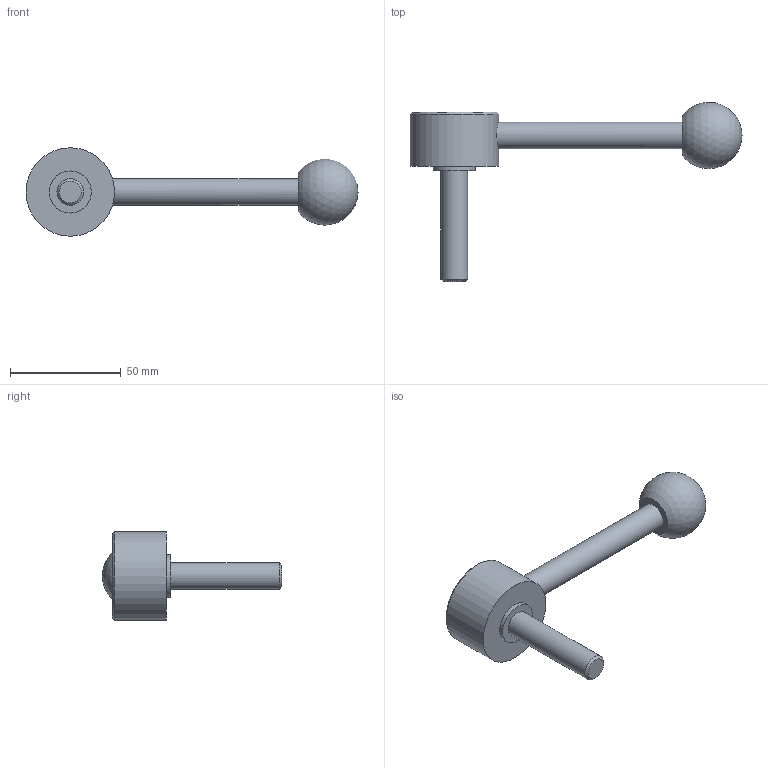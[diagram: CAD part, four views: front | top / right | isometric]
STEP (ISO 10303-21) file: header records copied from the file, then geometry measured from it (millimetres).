
FILE_DESCRIPTION( ( 'STEP AP203' ), '1' );
FILE_NAME( 'C:/Temp/Ganter_Step_05_03_2020/data/2_1/gn_125/gn_125_ms/gn_125_ms_d/Flat Adjustable Lever GN 125-40-M12-50-D.stp', '2020-03-05T11:00:51', ( 'License CC BY-ND 4.0' ), ( 'CADENAS' ), ' ', 'PARTsolutions', ' ' );
FILE_SCHEMA( ( 'CONFIG_CONTROL_DESIGN' ) );
Length unit declared in the file: millimetre
Products named in the file (1): _Flat Adjustable Lever GN 125-40-M12-50-D
Bounding box: 150 x 80.89 x 40 mm (x, y, z)
Volume: 59927.6 mm3; surface area: 13236.1 mm2
Topology: 1 solids, 1 shells, 14 faces, 23 edges, 15 vertices
Faces by surface type: plane 6, cylinder 5, cone 2, sphere 1
Full cylindrical faces by diameter (mm): 12 x2, 19 x1, 28 x1, 40 x1
Entity records: 402 total; most frequent: CARTESIAN_POINT 125, DIRECTION 54, AXIS2_PLACEMENT_3D 27, EDGE_LOOP 26, ORIENTED_EDGE 26, FACE_OUTER_BOUND 19, ADVANCED_FACE 14, VERTEX_POINT 14
